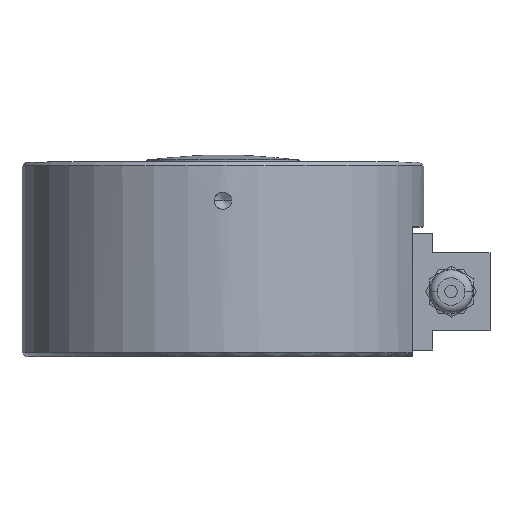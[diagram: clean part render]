
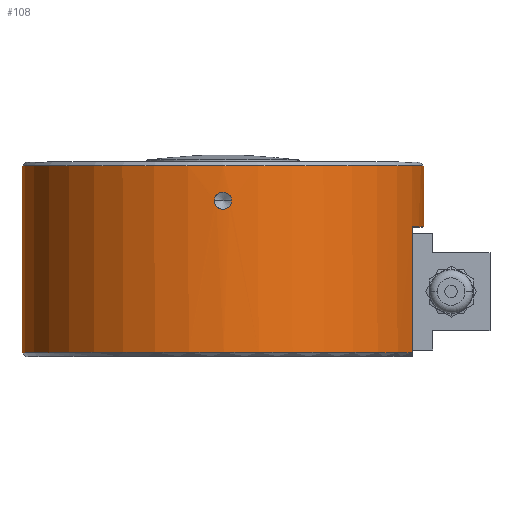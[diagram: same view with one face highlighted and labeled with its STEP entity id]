
A CAD part, top view. The second image highlights one B-rep face of the part: STEP entity #108.
In plain terms, the highlighted cylindrical face has radius 77.5 mm (diameter 155 mm), a partial arc.
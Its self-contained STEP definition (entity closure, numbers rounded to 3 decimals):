
#108=ADVANCED_FACE('',(#291,#292),#293,.T.);
#291=FACE_BOUND('',#632,.T.);
#292=FACE_OUTER_BOUND('',#633,.T.);
#293=CYLINDRICAL_SURFACE('',#634,77.5);
#632=EDGE_LOOP('',(#1139,#1140,#1141,#1142));
#633=EDGE_LOOP('',(#1143,#1144,#1145,#1146,#1147,#1148));
#634=AXIS2_PLACEMENT_3D('',#1149,#1150,#1151);
#1139=ORIENTED_EDGE('',*,*,#2174,.T.);
#1140=ORIENTED_EDGE('',*,*,#2175,.T.);
#1141=ORIENTED_EDGE('',*,*,#2176,.T.);
#1142=ORIENTED_EDGE('',*,*,#2177,.T.);
#1143=ORIENTED_EDGE('',*,*,#2178,.F.);
#1144=ORIENTED_EDGE('',*,*,#2179,.F.);
#1145=ORIENTED_EDGE('',*,*,#2180,.F.);
#1146=ORIENTED_EDGE('',*,*,#2181,.F.);
#1147=ORIENTED_EDGE('',*,*,#2182,.T.);
#1148=ORIENTED_EDGE('',*,*,#2183,.T.);
#1149=CARTESIAN_POINT('',(0.0,37.5,0.0));
#1150=DIRECTION('',(0.0,-1.0,0.0));
#1151=DIRECTION('',(1.0,0.0,0.0));
#2174=EDGE_CURVE('',#2702,#2703,#2704,.T.);
#2175=EDGE_CURVE('',#2703,#2705,#2706,.T.);
#2176=EDGE_CURVE('',#2705,#2707,#2708,.T.);
#2177=EDGE_CURVE('',#2707,#2702,#2709,.T.);
#2178=EDGE_CURVE('',#2710,#2711,#2712,.T.);
#2179=EDGE_CURVE('',#2713,#2710,#2714,.T.);
#2180=EDGE_CURVE('',#2715,#2713,#2716,.T.);
#2181=EDGE_CURVE('',#2717,#2715,#2718,.T.);
#2182=EDGE_CURVE('',#2717,#2719,#2720,.T.);
#2183=EDGE_CURVE('',#2719,#2711,#2721,.T.);
#2702=VERTEX_POINT('',#3332);
#2703=VERTEX_POINT('',#3333);
#2704=B_SPLINE_CURVE_WITH_KNOTS('',3,(#3334,#3335,#3336,#3337,#3338,#3339,#3340,#3341,#3342,#3343,#3344,#3345,#3346,#3347,#3348,#3349,#3350,#3351),.UNSPECIFIED.,.F.,.F.,(4,2,2,2,2,2,2,2,4),(0.501,0.626,0.751,0.876,1.002,1.127,1.252,1.377,1.502),.UNSPECIFIED.);
#2705=VERTEX_POINT('',#3352);
#2706=B_SPLINE_CURVE_WITH_KNOTS('',3,(#3353,#3354,#3355,#3356,#3357,#3358,#3359,#3360,#3361,#3362,#3363,#3364,#3365,#3366,#3367,#3368,#3369,#3370),.UNSPECIFIED.,.F.,.F.,(4,2,2,2,2,2,2,2,4),(0.501,0.626,0.751,0.876,1.002,1.127,1.252,1.377,1.502),.UNSPECIFIED.);
#2707=VERTEX_POINT('',#3371);
#2708=B_SPLINE_CURVE_WITH_KNOTS('',3,(#3372,#3373,#3374,#3375,#3376,#3377,#3378,#3379,#3380,#3381,#3382,#3383,#3384,#3385,#3386,#3387,#3388,#3389,#3390),.UNSPECIFIED.,.F.,.F.,(4,2,2,2,3,2,2,2,4),(1.502,1.628,1.753,1.878,2.003,2.129,2.254,2.379,2.504),.UNSPECIFIED.);
#2709=B_SPLINE_CURVE_WITH_KNOTS('',3,(#3391,#3392,#3393,#3394,#3395,#3396,#3397,#3398,#3399,#3400,#3401,#3402,#3403,#3404,#3405,#3406,#3407,#3408,#3409),.UNSPECIFIED.,.F.,.F.,(4,2,2,2,3,2,2,2,4),(1.502,1.628,1.753,1.878,2.003,2.129,2.254,2.379,2.504),.UNSPECIFIED.);
#2710=VERTEX_POINT('',#3410);
#2711=VERTEX_POINT('',#3411);
#2712=LINE('',#3412,#3413);
#2713=VERTEX_POINT('',#3414);
#2714=CIRCLE('',#3415,77.5);
#2715=VERTEX_POINT('',#3416);
#2716=LINE('',#3417,#3418);
#2717=VERTEX_POINT('',#3419);
#2718=CIRCLE('',#3420,77.5);
#2719=VERTEX_POINT('',#3421);
#2720=LINE('',#3422,#3423);
#2721=CIRCLE('',#3424,77.5);
#3332=CARTESIAN_POINT('',(0.,63.324,77.5));
#3333=CARTESIAN_POINT('',(3.324,60.0,77.429));
#3334=CARTESIAN_POINT('',(0.,63.324,77.5));
#3335=CARTESIAN_POINT('',(0.417,63.324,77.5));
#3336=CARTESIAN_POINT('',(0.863,63.24,77.496));
#3337=CARTESIAN_POINT('',(1.681,62.901,77.483));
#3338=CARTESIAN_POINT('',(2.055,62.645,77.473));
#3339=CARTESIAN_POINT('',(2.645,62.055,77.455));
#3340=CARTESIAN_POINT('',(2.901,61.681,77.446));
#3341=CARTESIAN_POINT('',(3.24,60.863,77.432));
#3342=CARTESIAN_POINT('',(3.324,60.417,77.429));
#3343=CARTESIAN_POINT('',(3.324,59.583,77.429));
#3344=CARTESIAN_POINT('',(3.24,59.137,77.432));
#3345=CARTESIAN_POINT('',(2.901,58.319,77.446));
#3346=CARTESIAN_POINT('',(2.645,57.945,77.455));
#3347=CARTESIAN_POINT('',(2.055,57.355,77.473));
#3348=CARTESIAN_POINT('',(1.681,57.099,77.483));
#3349=CARTESIAN_POINT('',(0.863,56.76,77.496));
#3350=CARTESIAN_POINT('',(0.417,56.677,77.5));
#3351=CARTESIAN_POINT('',(0.,56.677,77.5));
#3352=CARTESIAN_POINT('',(0.,56.677,77.5));
#3353=CARTESIAN_POINT('',(0.,63.324,77.5));
#3354=CARTESIAN_POINT('',(0.417,63.324,77.5));
#3355=CARTESIAN_POINT('',(0.863,63.24,77.496));
#3356=CARTESIAN_POINT('',(1.681,62.901,77.483));
#3357=CARTESIAN_POINT('',(2.055,62.645,77.473));
#3358=CARTESIAN_POINT('',(2.645,62.055,77.455));
#3359=CARTESIAN_POINT('',(2.901,61.681,77.446));
#3360=CARTESIAN_POINT('',(3.24,60.863,77.432));
#3361=CARTESIAN_POINT('',(3.324,60.417,77.429));
#3362=CARTESIAN_POINT('',(3.324,59.583,77.429));
#3363=CARTESIAN_POINT('',(3.24,59.137,77.432));
#3364=CARTESIAN_POINT('',(2.901,58.319,77.446));
#3365=CARTESIAN_POINT('',(2.645,57.945,77.455));
#3366=CARTESIAN_POINT('',(2.055,57.355,77.473));
#3367=CARTESIAN_POINT('',(1.681,57.099,77.483));
#3368=CARTESIAN_POINT('',(0.863,56.76,77.496));
#3369=CARTESIAN_POINT('',(0.417,56.677,77.5));
#3370=CARTESIAN_POINT('',(0.,56.677,77.5));
#3371=CARTESIAN_POINT('',(-3.324,60.0,77.429));
#3372=CARTESIAN_POINT('',(0.,56.677,77.5));
#3373=CARTESIAN_POINT('',(-0.417,56.677,77.5));
#3374=CARTESIAN_POINT('',(-0.863,56.76,77.496));
#3375=CARTESIAN_POINT('',(-1.681,57.099,77.483));
#3376=CARTESIAN_POINT('',(-2.055,57.355,77.473));
#3377=CARTESIAN_POINT('',(-2.645,57.945,77.455));
#3378=CARTESIAN_POINT('',(-2.901,58.319,77.446));
#3379=CARTESIAN_POINT('',(-3.24,59.137,77.432));
#3380=CARTESIAN_POINT('',(-3.324,59.583,77.429));
#3381=CARTESIAN_POINT('',(-3.324,60.0,77.429));
#3382=CARTESIAN_POINT('',(-3.324,60.417,77.429));
#3383=CARTESIAN_POINT('',(-3.24,60.863,77.432));
#3384=CARTESIAN_POINT('',(-2.901,61.681,77.446));
#3385=CARTESIAN_POINT('',(-2.645,62.055,77.455));
#3386=CARTESIAN_POINT('',(-2.055,62.645,77.473));
#3387=CARTESIAN_POINT('',(-1.681,62.901,77.483));
#3388=CARTESIAN_POINT('',(-0.863,63.24,77.496));
#3389=CARTESIAN_POINT('',(-0.417,63.324,77.5));
#3390=CARTESIAN_POINT('',(0.,63.324,77.5));
#3391=CARTESIAN_POINT('',(0.,56.677,77.5));
#3392=CARTESIAN_POINT('',(-0.417,56.677,77.5));
#3393=CARTESIAN_POINT('',(-0.863,56.76,77.496));
#3394=CARTESIAN_POINT('',(-1.681,57.099,77.483));
#3395=CARTESIAN_POINT('',(-2.055,57.355,77.473));
#3396=CARTESIAN_POINT('',(-2.645,57.945,77.455));
#3397=CARTESIAN_POINT('',(-2.901,58.319,77.446));
#3398=CARTESIAN_POINT('',(-3.24,59.137,77.432));
#3399=CARTESIAN_POINT('',(-3.324,59.583,77.429));
#3400=CARTESIAN_POINT('',(-3.324,60.0,77.429));
#3401=CARTESIAN_POINT('',(-3.324,60.417,77.429));
#3402=CARTESIAN_POINT('',(-3.24,60.863,77.432));
#3403=CARTESIAN_POINT('',(-2.901,61.681,77.446));
#3404=CARTESIAN_POINT('',(-2.645,62.055,77.455));
#3405=CARTESIAN_POINT('',(-2.055,62.645,77.473));
#3406=CARTESIAN_POINT('',(-1.681,62.901,77.483));
#3407=CARTESIAN_POINT('',(-0.863,63.24,77.496));
#3408=CARTESIAN_POINT('',(-0.417,63.324,77.5));
#3409=CARTESIAN_POINT('',(0.,63.324,77.5));
#3410=CARTESIAN_POINT('',(77.5,73.5,0.));
#3411=CARTESIAN_POINT('',(77.5,50.0,0.));
#3412=CARTESIAN_POINT('',(77.5,37.5,0.));
#3413=VECTOR('',#4494,1.0);
#3414=CARTESIAN_POINT('',(-77.5,73.5,0.));
#3415=AXIS2_PLACEMENT_3D('',#4495,#4496,#4497);
#3416=CARTESIAN_POINT('',(-77.5,1.5,0.));
#3417=CARTESIAN_POINT('',(-77.5,37.5,0.));
#3418=VECTOR('',#4498,1.0);
#3419=CARTESIAN_POINT('',(73.0,1.5,26.024));
#3420=AXIS2_PLACEMENT_3D('',#4499,#4500,#4501);
#3421=CARTESIAN_POINT('',(73.0,50.0,26.024));
#3422=CARTESIAN_POINT('',(73.0,1.5,26.024));
#3423=VECTOR('',#4502,48.5);
#3424=AXIS2_PLACEMENT_3D('',#4503,#4504,#4505);
#4494=DIRECTION('',(0.0,-1.0,0.0));
#4495=CARTESIAN_POINT('',(0.0,73.5,0.0));
#4496=DIRECTION('',(0.0,1.0,0.0));
#4497=DIRECTION('',(-1.0,0.0,0.0));
#4498=DIRECTION('',(0.0,1.0,0.0));
#4499=CARTESIAN_POINT('',(0.0,1.5,0.0));
#4500=DIRECTION('',(0.0,-1.0,0.0));
#4501=DIRECTION('',(-1.0,0.0,0.0));
#4502=DIRECTION('',(0.0,1.0,0.0));
#4503=CARTESIAN_POINT('',(0.0,50.0,0.0));
#4504=DIRECTION('',(0.0,1.0,0.0));
#4505=DIRECTION('',(1.0,0.0,0.0));
